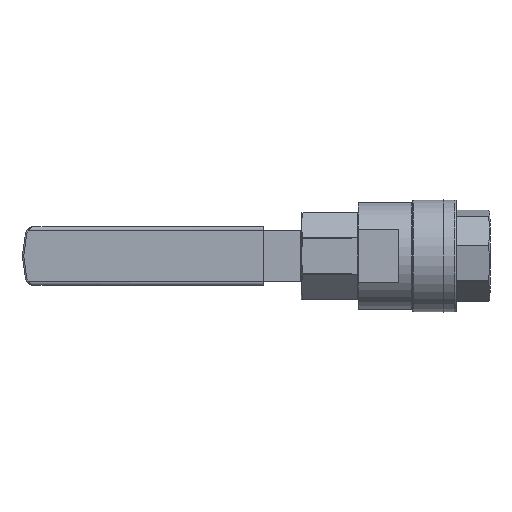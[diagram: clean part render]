
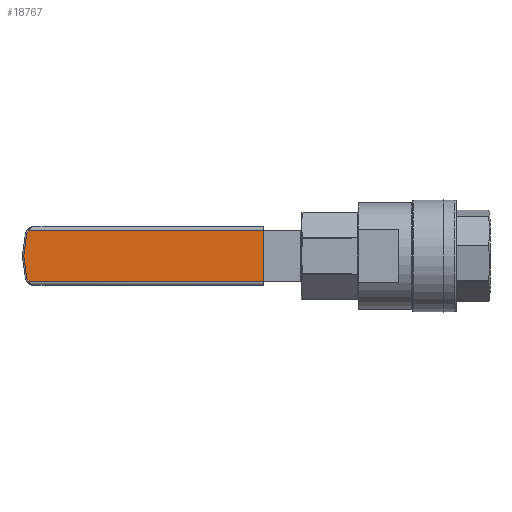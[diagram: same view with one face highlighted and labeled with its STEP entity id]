
A CAD part, front view. The second image highlights one B-rep face of the part: STEP entity #18767.
In plain terms, the highlighted planar face has unit normal (0, -1, 0).
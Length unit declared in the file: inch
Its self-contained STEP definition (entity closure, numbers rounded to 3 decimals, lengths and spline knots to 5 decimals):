
#1165 = DIRECTION ( 'NONE',  ( 0., -1., 0. ) ) ;
#1433 = EDGE_CURVE ( 'NONE', #33953, #16335, #23400, .T. ) ;
#2177 = CIRCLE ( 'NONE', #20495, 0.105 ) ;
#2183 = DIRECTION ( 'NONE',  ( -0.134, 0., 0.991 ) ) ;
#2362 = CARTESIAN_POINT ( 'NONE',  ( 5.34181, 1.17, 0.02544 ) ) ;
#3128 = CARTESIAN_POINT ( 'NONE',  ( 5.35456, 1.17, 0.36667 ) ) ;
#3258 = CARTESIAN_POINT ( 'NONE',  ( 1.88, 1.17, -0.37 ) ) ;
#3595 = ORIENTED_EDGE ( 'NONE', *, *, #15328, .T. ) ;
#4055 = DIRECTION ( 'NONE',  ( -1., 0., 0. ) ) ;
#4433 = ORIENTED_EDGE ( 'NONE', *, *, #14332, .T. ) ;
#5429 = FACE_OUTER_BOUND ( 'NONE', #31317, .T. ) ;
#5440 = CARTESIAN_POINT ( 'NONE',  ( 5.30557, 1.17, 0. ) ) ;
#5794 = DIRECTION ( 'NONE',  ( 0., 0., 1. ) ) ;
#6629 = VECTOR ( 'NONE', #30390, 39.37008 ) ;
#6744 = AXIS2_PLACEMENT_3D ( 'NONE', #27102, #7579, #29270 ) ;
#7513 = DIRECTION ( 'NONE',  ( 0., 0., -1. ) ) ;
#7579 = DIRECTION ( 'NONE',  ( 0., 1., 0. ) ) ;
#7702 = CIRCLE ( 'NONE', #12851, 0.04 ) ;
#7784 = CIRCLE ( 'NONE', #31254, 0.105 ) ;
#7882 = EDGE_CURVE ( 'NONE', #22383, #20328, #7702, .T. ) ;
#7915 = VERTEX_POINT ( 'NONE', #24961 ) ;
#8681 = LINE ( 'NONE', #3128, #6629 ) ;
#10249 = CARTESIAN_POINT ( 'NONE',  ( 5.25613, 1.17, 0.35999 ) ) ;
#10430 = DIRECTION ( 'NONE',  ( 0., 0., 1. ) ) ;
#10786 = ORIENTED_EDGE ( 'NONE', *, *, #26688, .T. ) ;
#11657 = EDGE_CURVE ( 'NONE', #7915, #17693, #7784, .T. ) ;
#11937 = CARTESIAN_POINT ( 'NONE',  ( 5.15898, 1.17, 0.295 ) ) ;
#12360 = EDGE_CURVE ( 'NONE', #17693, #20328, #8681, .T. ) ;
#12552 = CARTESIAN_POINT ( 'NONE',  ( 5.23246, 1.17, 0.37 ) ) ;
#12605 = CARTESIAN_POINT ( 'NONE',  ( 5.26303, 1.17, 0.30909 ) ) ;
#12851 = AXIS2_PLACEMENT_3D ( 'NONE', #24780, #13506, #24436 ) ;
#13506 = DIRECTION ( 'NONE',  ( 0., -1., 0. ) ) ;
#13783 = DIRECTION ( 'NONE',  ( 0., 0., 1. ) ) ;
#14332 = EDGE_CURVE ( 'NONE', #22383, #33774, #14613, .T. ) ;
#14545 = LINE ( 'NONE', #27802, #24639 ) ;
#14613 = CIRCLE ( 'NONE', #23202, 0.00428 ) ;
#14676 = EDGE_CURVE ( 'NONE', #34531, #20978, #21355, .T. ) ;
#15328 = EDGE_CURVE ( 'NONE', #16335, #35344, #32079, .T. ) ;
#15934 = CARTESIAN_POINT ( 'NONE',  ( 1.88, 1.17, 0.37 ) ) ;
#16109 = DIRECTION ( 'NONE',  ( 0., -1., 0. ) ) ;
#16329 = VECTOR ( 'NONE', #2183, 39.37008 ) ;
#16335 = VERTEX_POINT ( 'NONE', #16838 ) ;
#16710 = EDGE_CURVE ( 'NONE', #7915, #35344, #14545, .T. ) ;
#16838 = CARTESIAN_POINT ( 'NONE',  ( 1.88, 1.17, 0.37 ) ) ;
#16926 = VECTOR ( 'NONE', #7513, 39.37008 ) ;
#17693 = VERTEX_POINT ( 'NONE', #32720 ) ;
#18184 = CIRCLE ( 'NONE', #24460, 0.04 ) ;
#18767 = ADVANCED_FACE ( 'NONE', ( #5429 ), #32142, .F. ) ;
#19268 = ORIENTED_EDGE ( 'NONE', *, *, #1433, .T. ) ;
#19341 = CARTESIAN_POINT ( 'NONE',  ( 5.15898, 1.17, -0.295 ) ) ;
#20037 = CARTESIAN_POINT ( 'NONE',  ( 5.30907, 1.17, 0.00246 ) ) ;
#20328 = VERTEX_POINT ( 'NONE', #26600 ) ;
#20495 = AXIS2_PLACEMENT_3D ( 'NONE', #11937, #1165, #22686 ) ;
#20978 = VERTEX_POINT ( 'NONE', #12605 ) ;
#21355 = LINE ( 'NONE', #10249, #16329 ) ;
#21897 = DIRECTION ( 'NONE',  ( 0., -1., 0. ) ) ;
#22383 = VERTEX_POINT ( 'NONE', #24501 ) ;
#22686 = DIRECTION ( 'NONE',  ( 0., 0., 1. ) ) ;
#23202 = AXIS2_PLACEMENT_3D ( 'NONE', #5440, #27642, #5794 ) ;
#23256 = CARTESIAN_POINT ( 'NONE',  ( 5.30217, 1.17, 0.02007 ) ) ;
#23400 = LINE ( 'NONE', #23743, #31276 ) ;
#23743 = CARTESIAN_POINT ( 'NONE',  ( 5.33, 1.17, 0.37 ) ) ;
#24167 = ORIENTED_EDGE ( 'NONE', *, *, #28302, .F. ) ;
#24436 = DIRECTION ( 'NONE',  ( 0., 0., 1. ) ) ;
#24460 = AXIS2_PLACEMENT_3D ( 'NONE', #2362, #21897, #10430 ) ;
#24501 = CARTESIAN_POINT ( 'NONE',  ( 5.30907, 1.17, -0.00246 ) ) ;
#24639 = VECTOR ( 'NONE', #30172, 39.37008 ) ;
#24780 = CARTESIAN_POINT ( 'NONE',  ( 5.34181, 1.17, -0.02544 ) ) ;
#24961 = CARTESIAN_POINT ( 'NONE',  ( 5.23246, 1.17, -0.37 ) ) ;
#26495 = ORIENTED_EDGE ( 'NONE', *, *, #11657, .T. ) ;
#26600 = CARTESIAN_POINT ( 'NONE',  ( 5.30217, 1.17, -0.02007 ) ) ;
#26688 = EDGE_CURVE ( 'NONE', #20978, #33953, #2177, .T. ) ;
#27102 = CARTESIAN_POINT ( 'NONE',  ( 5.33, 1.17, 0.37 ) ) ;
#27642 = DIRECTION ( 'NONE',  ( 0., -1., 0. ) ) ;
#27802 = CARTESIAN_POINT ( 'NONE',  ( 5.33, 1.17, -0.37 ) ) ;
#28302 = EDGE_CURVE ( 'NONE', #34531, #33774, #18184, .T. ) ;
#29200 = ORIENTED_EDGE ( 'NONE', *, *, #7882, .F. ) ;
#29270 = DIRECTION ( 'NONE',  ( 0., 0., 1. ) ) ;
#30172 = DIRECTION ( 'NONE',  ( -1., 0., 0. ) ) ;
#30390 = DIRECTION ( 'NONE',  ( 0.134, 0., 0.991 ) ) ;
#30874 = ORIENTED_EDGE ( 'NONE', *, *, #16710, .F. ) ;
#31254 = AXIS2_PLACEMENT_3D ( 'NONE', #19341, #16109, #13783 ) ;
#31276 = VECTOR ( 'NONE', #4055, 39.37008 ) ;
#31317 = EDGE_LOOP ( 'NONE', ( #30874, #26495, #34627, #29200, #4433, #24167, #33251, #10786, #19268, #3595 ) ) ;
#32079 = LINE ( 'NONE', #15934, #16926 ) ;
#32142 = PLANE ( 'NONE',  #6744 ) ;
#32720 = CARTESIAN_POINT ( 'NONE',  ( 5.26303, 1.17, -0.30909 ) ) ;
#33251 = ORIENTED_EDGE ( 'NONE', *, *, #14676, .T. ) ;
#33774 = VERTEX_POINT ( 'NONE', #20037 ) ;
#33953 = VERTEX_POINT ( 'NONE', #12552 ) ;
#34531 = VERTEX_POINT ( 'NONE', #23256 ) ;
#34627 = ORIENTED_EDGE ( 'NONE', *, *, #12360, .T. ) ;
#35344 = VERTEX_POINT ( 'NONE', #3258 ) ;
